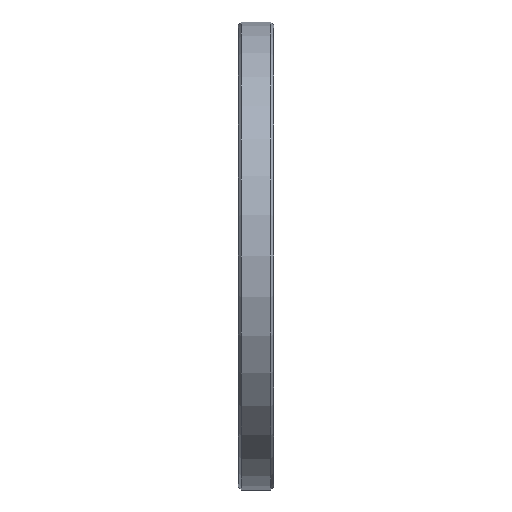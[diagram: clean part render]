
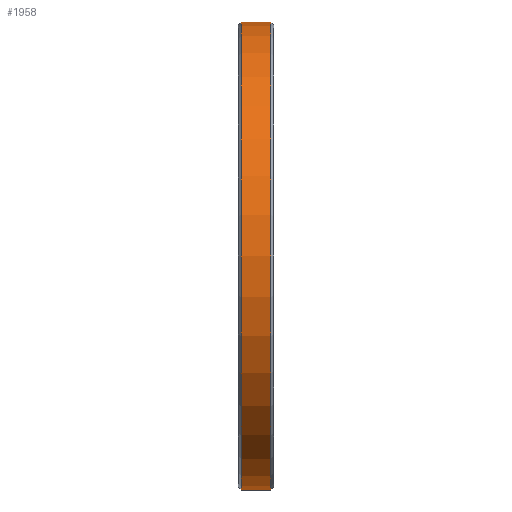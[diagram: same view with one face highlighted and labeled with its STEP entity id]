
A CAD part, left-side view. The second image highlights one B-rep face of the part: STEP entity #1958.
In plain terms, the highlighted cylindrical face has radius 79 mm (diameter 158 mm), a partial arc.
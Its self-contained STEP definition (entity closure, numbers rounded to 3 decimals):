
#102 = VECTOR ( 'NONE', #1178, 1000. ) ;
#111 = VERTEX_POINT ( 'NONE', #1512 ) ;
#145 = LINE ( 'NONE', #2425, #102 ) ;
#147 = CARTESIAN_POINT ( 'NONE',  ( 0., 11., 0. ) ) ;
#269 = EDGE_CURVE ( 'NONE', #111, #2919, #2450, .T. ) ;
#325 = CARTESIAN_POINT ( 'NONE',  ( 0., 12., -79. ) ) ;
#371 = CYLINDRICAL_SURFACE ( 'NONE', #3373, 79. ) ;
#458 = CARTESIAN_POINT ( 'NONE',  ( 0., 1., -79. ) ) ;
#737 = DIRECTION ( 'NONE',  ( 0., 1., 0. ) ) ;
#743 = EDGE_CURVE ( 'NONE', #2010, #111, #3202, .T. ) ;
#759 = VECTOR ( 'NONE', #3016, 1000. ) ;
#1178 = DIRECTION ( 'NONE',  ( 0., -1., 0. ) ) ;
#1180 = DIRECTION ( 'NONE',  ( 0., -1., 0. ) ) ;
#1206 = DIRECTION ( 'NONE',  ( 0., 0., 1. ) ) ;
#1249 = ORIENTED_EDGE ( 'NONE', *, *, #3204, .F. ) ;
#1418 = DIRECTION ( 'NONE',  ( 0., 0., -1. ) ) ;
#1484 = ORIENTED_EDGE ( 'NONE', *, *, #743, .T. ) ;
#1512 = CARTESIAN_POINT ( 'NONE',  ( 0., 11., -79. ) ) ;
#1519 = ORIENTED_EDGE ( 'NONE', *, *, #269, .T. ) ;
#1683 = DIRECTION ( 'NONE',  ( 0., -1., 0. ) ) ;
#1700 = AXIS2_PLACEMENT_3D ( 'NONE', #147, #1180, #3281 ) ;
#1828 = CIRCLE ( 'NONE', #1884, 79. ) ;
#1866 = ORIENTED_EDGE ( 'NONE', *, *, #2114, .T. ) ;
#1884 = AXIS2_PLACEMENT_3D ( 'NONE', #2005, #737, #1206 ) ;
#1958 = ADVANCED_FACE ( 'NONE', ( #3293 ), #371, .T. ) ;
#2005 = CARTESIAN_POINT ( 'NONE',  ( 0., 1., 0. ) ) ;
#2010 = VERTEX_POINT ( 'NONE', #2723 ) ;
#2114 = EDGE_CURVE ( 'NONE', #2919, #2292, #1828, .T. ) ;
#2292 = VERTEX_POINT ( 'NONE', #2386 ) ;
#2386 = CARTESIAN_POINT ( 'NONE',  ( 0., 1., 79. ) ) ;
#2425 = CARTESIAN_POINT ( 'NONE',  ( 0., 12., 79. ) ) ;
#2450 = LINE ( 'NONE', #325, #759 ) ;
#2723 = CARTESIAN_POINT ( 'NONE',  ( 0., 11., 79. ) ) ;
#2919 = VERTEX_POINT ( 'NONE', #458 ) ;
#2947 = EDGE_LOOP ( 'NONE', ( #1249, #1484, #1519, #1866 ) ) ;
#3016 = DIRECTION ( 'NONE',  ( 0., -1., 0. ) ) ;
#3202 = CIRCLE ( 'NONE', #1700, 79. ) ;
#3204 = EDGE_CURVE ( 'NONE', #2010, #2292, #145, .T. ) ;
#3248 = CARTESIAN_POINT ( 'NONE',  ( 0., 12., 0. ) ) ;
#3281 = DIRECTION ( 'NONE',  ( 0., 0., 1. ) ) ;
#3293 = FACE_OUTER_BOUND ( 'NONE', #2947, .T. ) ;
#3373 = AXIS2_PLACEMENT_3D ( 'NONE', #3248, #1683, #1418 ) ;
